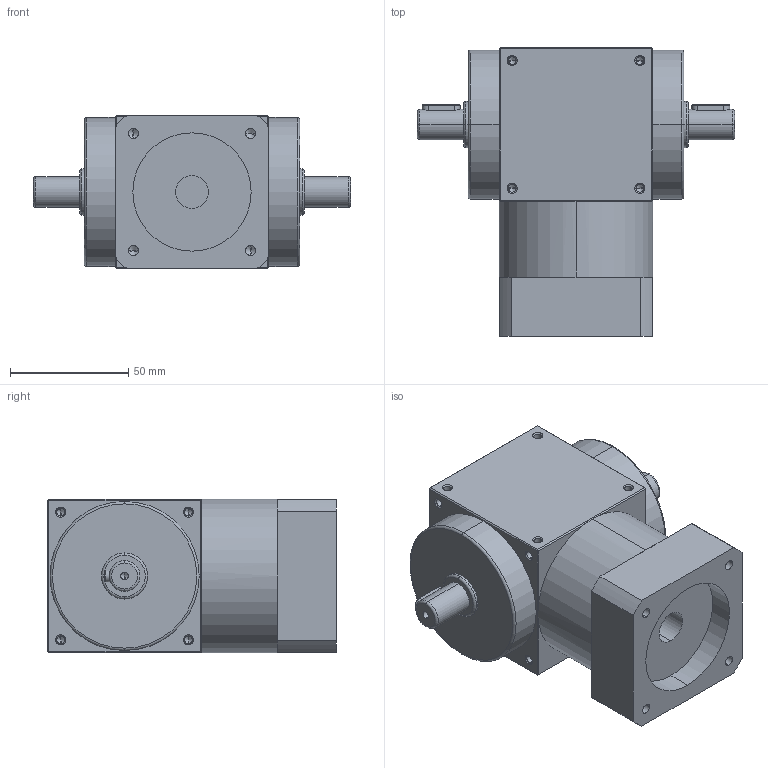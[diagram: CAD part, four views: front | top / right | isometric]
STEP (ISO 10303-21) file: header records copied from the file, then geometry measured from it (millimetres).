
FILE_DESCRIPTION (( 'STEP AP214' ), '1' );
FILE_NAME ('AT065-FL-001--14-50-70-M5.STEP', '2020-07-10T07:30:07', ( 'User' ), ( 'Far123' ), 'SwSTEP 2.0', 'SolidWorks 2015', '' );
FILE_SCHEMA (( 'AUTOMOTIVE_DESIGN' ));
Length unit declared in the file: millimetre
Products named in the file (1): AT065-FL-001--14-50-70-M5
Bounding box: 134 x 122 x 65 mm (x, y, z)
Volume: 546638 mm3; surface area: 51759.1 mm2
Topology: 1 solids, 2 shells, 290 faces, 710 edges, 384 vertices
Faces by surface type: cylinder 120, cone 96, plane 62, torus 12
Entity records: 9154 total; most frequent: CARTESIAN_POINT 1797, DIRECTION 1358, ORIENTED_EDGE 1316, EDGE_CURVE 658, AXIS2_PLACEMENT_3D 525, VERTEX_POINT 384, EDGE_LOOP 326, VECTOR 308
